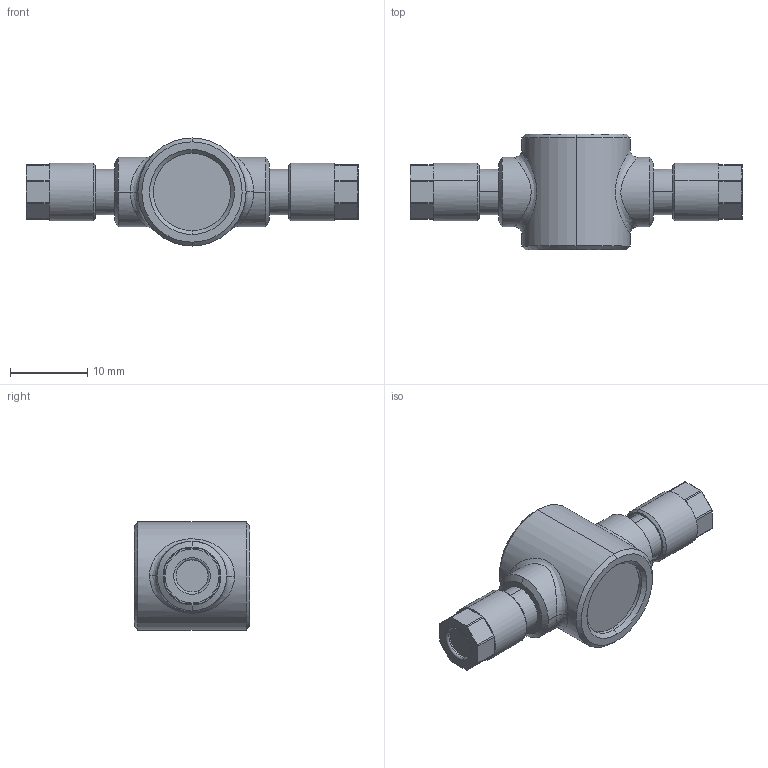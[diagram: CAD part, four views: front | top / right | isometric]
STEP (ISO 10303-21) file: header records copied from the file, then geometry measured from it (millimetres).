
FILE_DESCRIPTION (( 'STEP AP214' ), '1' );
FILE_NAME ('0151000002.step', '2012-09-28T13:27:21', ( '' ), ( '' ), 'SwSTEP 2.0', 'SolidWorks 2012', '' );
FILE_SCHEMA (( 'AUTOMOTIVE_DESIGN' ));
Length unit declared in the file: millimetre
Products named in the file (1): 0151000002
Bounding box: 43 x 15 x 14 mm (x, y, z)
Volume: 3447.2 mm3; surface area: 1763.3 mm2
Topology: 1 solids, 1 shells, 112 faces, 266 edges, 166 vertices
Faces by surface type: plane 44, cone 38, cylinder 22, torus 4, bspline 4
Entity records: 5308 total; most frequent: CARTESIAN_POINT 1443, DIRECTION 570, ORIENTED_EDGE 532, EDGE_CURVE 266, AXIS2_PLACEMENT_3D 239, VERTEX_POINT 166, CIRCLE 130, EDGE_LOOP 122
